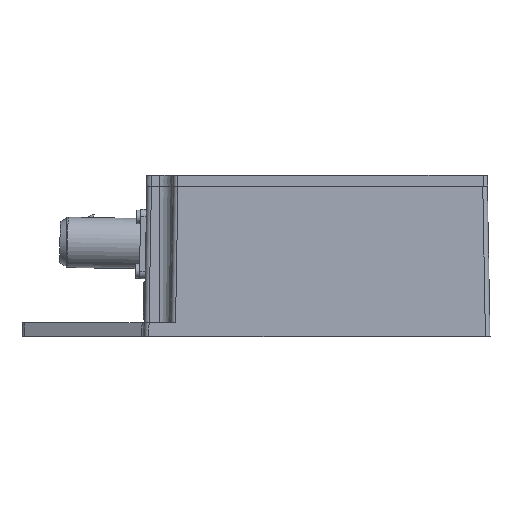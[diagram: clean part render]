
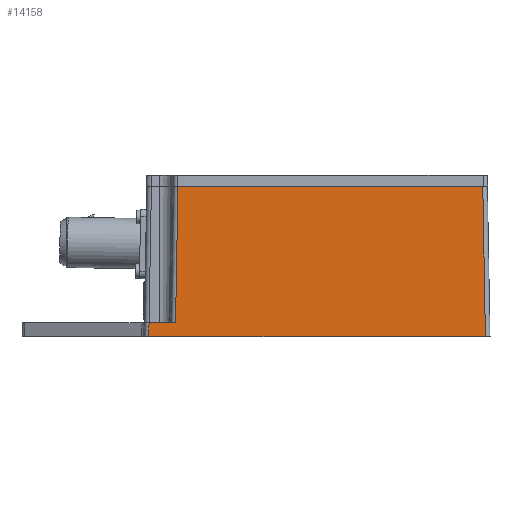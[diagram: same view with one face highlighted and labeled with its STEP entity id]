
A CAD part, top view. The second image highlights one B-rep face of the part: STEP entity #14158.
In plain terms, the highlighted planar face has unit normal (0, 0.018, 1).
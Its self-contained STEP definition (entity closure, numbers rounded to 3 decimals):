
#475 = VECTOR ( 'NONE', #41982, 1000. ) ;
#3160 = VECTOR ( 'NONE', #68818, 1000. ) ;
#7203 = ORIENTED_EDGE ( 'NONE', *, *, #39440, .T. ) ;
#8221 = CARTESIAN_POINT ( 'NONE',  ( 71.866, 65., 56.365 ) ) ;
#8597 = ORIENTED_EDGE ( 'NONE', *, *, #14968, .F. ) ;
#8910 = CARTESIAN_POINT ( 'NONE',  ( -73., 0., 57.5 ) ) ;
#9258 = LINE ( 'NONE', #32775, #54984 ) ;
#9517 = DIRECTION ( 'NONE',  ( -0.017, -1., 0.017 ) ) ;
#9973 = LINE ( 'NONE', #27316, #51729 ) ;
#12400 = EDGE_CURVE ( 'NONE', #45226, #20532, #61004, .T. ) ;
#12499 = AXIS2_PLACEMENT_3D ( 'NONE', #24522, #12925, #19098 ) ;
#12925 = DIRECTION ( 'NONE',  ( 0., 0.017, 1. ) ) ;
#13462 = CARTESIAN_POINT ( 'NONE',  ( 71.866, 65., 56.365 ) ) ;
#13791 = EDGE_CURVE ( 'NONE', #45226, #25153, #9973, .T. ) ;
#14158 = ADVANCED_FACE ( 'NONE', ( #72971 ), #61389, .T. ) ;
#14968 = EDGE_CURVE ( 'NONE', #20532, #52244, #25414, .T. ) ;
#15374 = DIRECTION ( 'NONE',  ( -0.017, -1., 0.017 ) ) ;
#15727 = VECTOR ( 'NONE', #9517, 1000. ) ;
#17574 = ORIENTED_EDGE ( 'NONE', *, *, #13791, .T. ) ;
#19098 = DIRECTION ( 'NONE',  ( 1., 0., 0. ) ) ;
#20532 = VERTEX_POINT ( 'NONE', #8221 ) ;
#24522 = CARTESIAN_POINT ( 'NONE',  ( -78.913, 0., 57.5 ) ) ;
#25153 = VERTEX_POINT ( 'NONE', #58264 ) ;
#25414 = LINE ( 'NONE', #13462, #475 ) ;
#25516 = CARTESIAN_POINT ( 'NONE',  ( -72.896, 6., 57.395 ) ) ;
#27316 = CARTESIAN_POINT ( 'NONE',  ( -60.366, 65., 56.365 ) ) ;
#28013 = ORIENTED_EDGE ( 'NONE', *, *, #62516, .T. ) ;
#32420 = ORIENTED_EDGE ( 'NONE', *, *, #12400, .F. ) ;
#32775 = CARTESIAN_POINT ( 'NONE',  ( -61.396, 6., 57.395 ) ) ;
#39284 = DIRECTION ( 'NONE',  ( -1., 0., 0. ) ) ;
#39440 = EDGE_CURVE ( 'NONE', #70359, #52244, #49959, .T. ) ;
#41982 = DIRECTION ( 'NONE',  ( 0.017, -1., 0.017 ) ) ;
#43664 = DIRECTION ( 'NONE',  ( 1., 0., 0. ) ) ;
#45226 = VERTEX_POINT ( 'NONE', #65989 ) ;
#45305 = CARTESIAN_POINT ( 'NONE',  ( -73., 0., 57.5 ) ) ;
#49177 = CARTESIAN_POINT ( 'NONE',  ( -72.896, 6., 57.395 ) ) ;
#49804 = CARTESIAN_POINT ( 'NONE',  ( -60.366, 65., 56.365 ) ) ;
#49959 = LINE ( 'NONE', #45305, #3160 ) ;
#51729 = VECTOR ( 'NONE', #15374, 1000. ) ;
#52244 = VERTEX_POINT ( 'NONE', #53138 ) ;
#53138 = CARTESIAN_POINT ( 'NONE',  ( 73., 0., 57.5 ) ) ;
#54984 = VECTOR ( 'NONE', #39284, 1000. ) ;
#56874 = EDGE_LOOP ( 'NONE', ( #32420, #17574, #28013, #60088, #7203, #8597 ) ) ;
#58264 = CARTESIAN_POINT ( 'NONE',  ( -61.396, 6., 57.395 ) ) ;
#60088 = ORIENTED_EDGE ( 'NONE', *, *, #61427, .T. ) ;
#61004 = LINE ( 'NONE', #49804, #64960 ) ;
#61389 = PLANE ( 'NONE',  #12499 ) ;
#61427 = EDGE_CURVE ( 'NONE', #64270, #70359, #61496, .T. ) ;
#61496 = LINE ( 'NONE', #49177, #15727 ) ;
#62516 = EDGE_CURVE ( 'NONE', #25153, #64270, #9258, .T. ) ;
#64270 = VERTEX_POINT ( 'NONE', #25516 ) ;
#64960 = VECTOR ( 'NONE', #43664, 1000. ) ;
#65989 = CARTESIAN_POINT ( 'NONE',  ( -60.366, 65., 56.365 ) ) ;
#68818 = DIRECTION ( 'NONE',  ( 1., 0., 0. ) ) ;
#70359 = VERTEX_POINT ( 'NONE', #8910 ) ;
#72971 = FACE_OUTER_BOUND ( 'NONE', #56874, .T. ) ;
